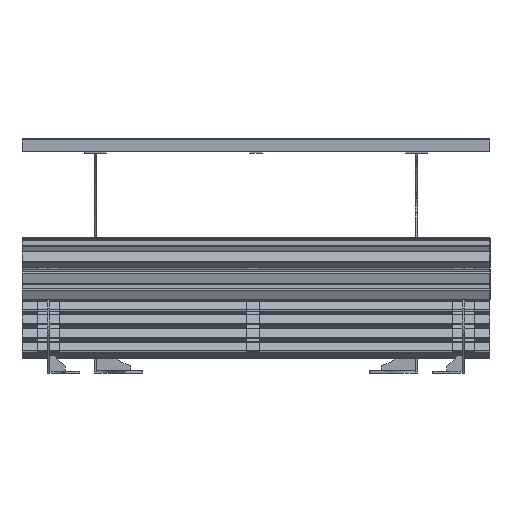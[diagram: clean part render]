
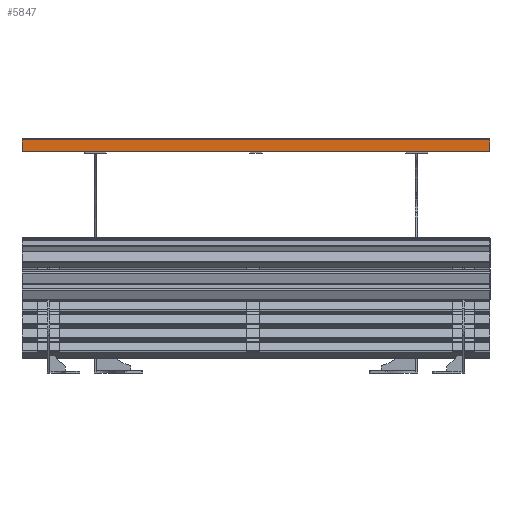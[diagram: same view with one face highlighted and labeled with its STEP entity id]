
A CAD part, left-side view. The second image highlights one B-rep face of the part: STEP entity #5847.
In plain terms, the highlighted planar face has unit normal (-1, 0, 0) as drawn and (0, 0, 1) by its records, which use the part's own axes.
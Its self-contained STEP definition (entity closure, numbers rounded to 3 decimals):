
#821=FACE_OUTER_BOUND('',#1191,.T.);
#1191=EDGE_LOOP('',(#4279,#4280,#4281,#4282));
#1629=LINE('',#9302,#2157);
#1630=LINE('',#9304,#2158);
#1631=LINE('',#9306,#2159);
#1632=LINE('',#9307,#2160);
#2157=VECTOR('',#7337,1000.);
#2158=VECTOR('',#7338,1000.);
#2159=VECTOR('',#7339,1000.);
#2160=VECTOR('',#7340,1000.);
#2667=VERTEX_POINT('',#9300);
#2668=VERTEX_POINT('',#9301);
#2669=VERTEX_POINT('',#9303);
#2670=VERTEX_POINT('',#9305);
#3241=EDGE_CURVE('',#2667,#2668,#1629,.T.);
#3242=EDGE_CURVE('',#2669,#2667,#1630,.T.);
#3243=EDGE_CURVE('',#2669,#2670,#1631,.T.);
#3244=EDGE_CURVE('',#2670,#2668,#1632,.T.);
#4279=ORIENTED_EDGE('',*,*,#3241,.F.);
#4280=ORIENTED_EDGE('',*,*,#3242,.F.);
#4281=ORIENTED_EDGE('',*,*,#3243,.T.);
#4282=ORIENTED_EDGE('',*,*,#3244,.T.);
#5615=PLANE('',#6384);
#5847=ADVANCED_FACE('',(#821),#5615,.T.);
#6384=AXIS2_PLACEMENT_3D('',#9299,#7335,#7336);
#7335=DIRECTION('center_axis',(0.,0.,1.));
#7336=DIRECTION('ref_axis',(1.,0.,0.));
#7337=DIRECTION('',(0.,-1.,0.));
#7338=DIRECTION('',(1.,0.,0.));
#7339=DIRECTION('',(0.,-1.,0.));
#7340=DIRECTION('',(1.,0.,0.));
#9299=CARTESIAN_POINT('Origin',(-1500.,0.,0.));
#9300=CARTESIAN_POINT('',(0.,37.,0.));
#9301=CARTESIAN_POINT('',(0.,0.,0.));
#9302=CARTESIAN_POINT('',(0.,0.,0.));
#9303=CARTESIAN_POINT('',(-1500.,37.,0.));
#9304=CARTESIAN_POINT('',(-1500.,37.,0.));
#9305=CARTESIAN_POINT('',(-1500.,0.,0.));
#9306=CARTESIAN_POINT('',(-1500.,0.,0.));
#9307=CARTESIAN_POINT('',(-1500.,0.,0.));
